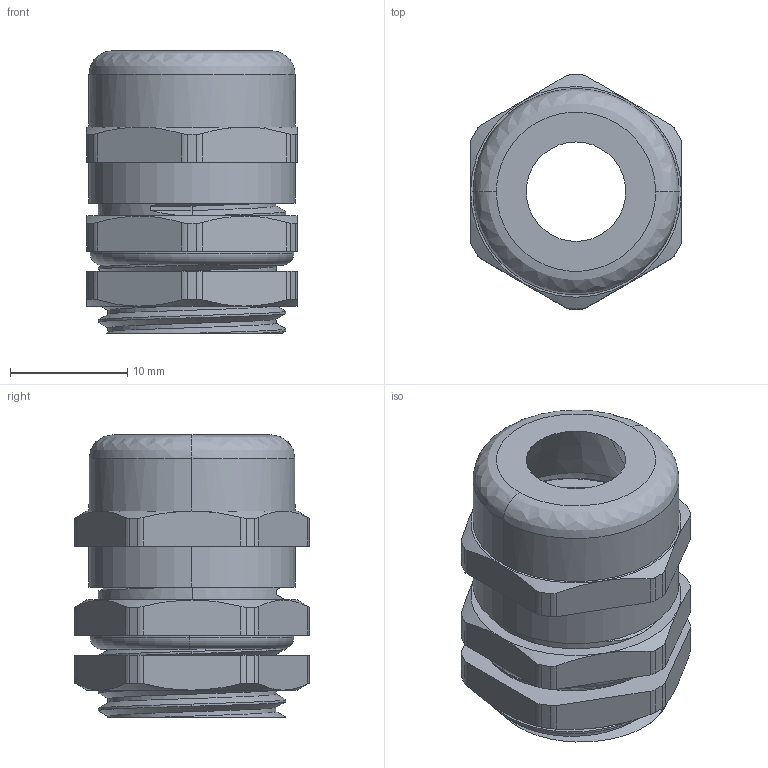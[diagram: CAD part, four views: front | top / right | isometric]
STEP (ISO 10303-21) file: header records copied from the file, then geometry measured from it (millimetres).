
FILE_DESCRIPTION (( 'STEP AP214' ), '1' );
FILE_NAME ('R5BCM16.STEP', '2022-10-11T06:07:13', ( '' ), ( '' ), 'SwSTEP 2.0', 'SolidWorks 2022', '' );
FILE_SCHEMA (( 'AUTOMOTIVE_DESIGN' ));
Length unit declared in the file: millimetre
Products named in the file (5): R5BCM16; Фиксирующая гайка_R5BCM16; Корпус_R5BCM16; Крышка_R5BCM16; Уплотнительное кольцо_R5BCM16
Assembly tree (4 placements, depth 2):
  R5BCM16
    Корпус_R5BCM16
    Уплотнительное кольцо_R5BCM16
    Фиксирующая гайка_R5BCM16
    Крышка_R5BCM16
Bounding box: 18 x 20 x 24.1 mm (x, y, z)
Volume: 3162.5 mm3; surface area: 4876.6 mm2
Topology: 4 solids, 4 shells, 213 faces, 553 edges, 351 vertices
Faces by surface type: plane 91, cylinder 80, cone 22, bspline 14, torus 6
Entity records: 15268 total; most frequent: CARTESIAN_POINT 10197, ORIENTED_EDGE 1106, DIRECTION 951, EDGE_CURVE 553, AXIS2_PLACEMENT_3D 376, VERTEX_POINT 351, EDGE_LOOP 224, ADVANCED_FACE 213
